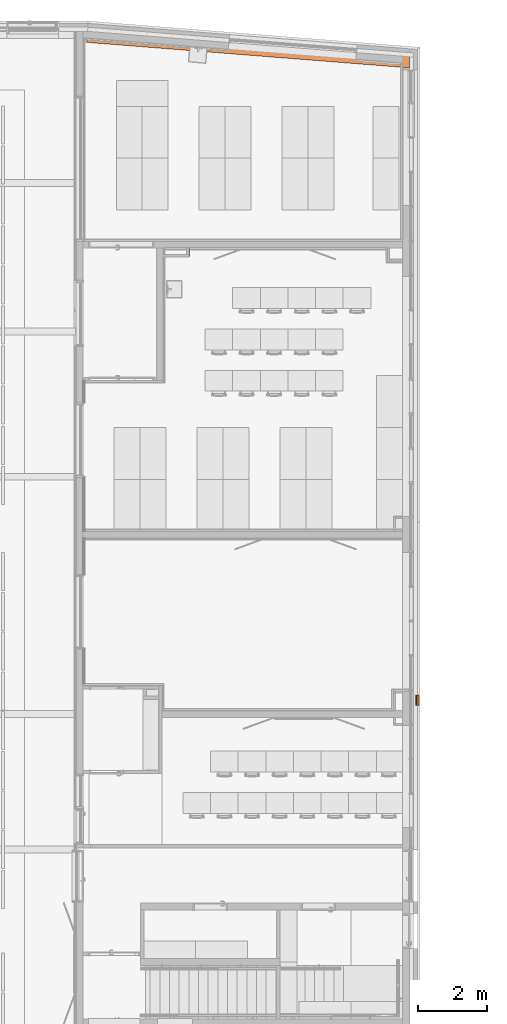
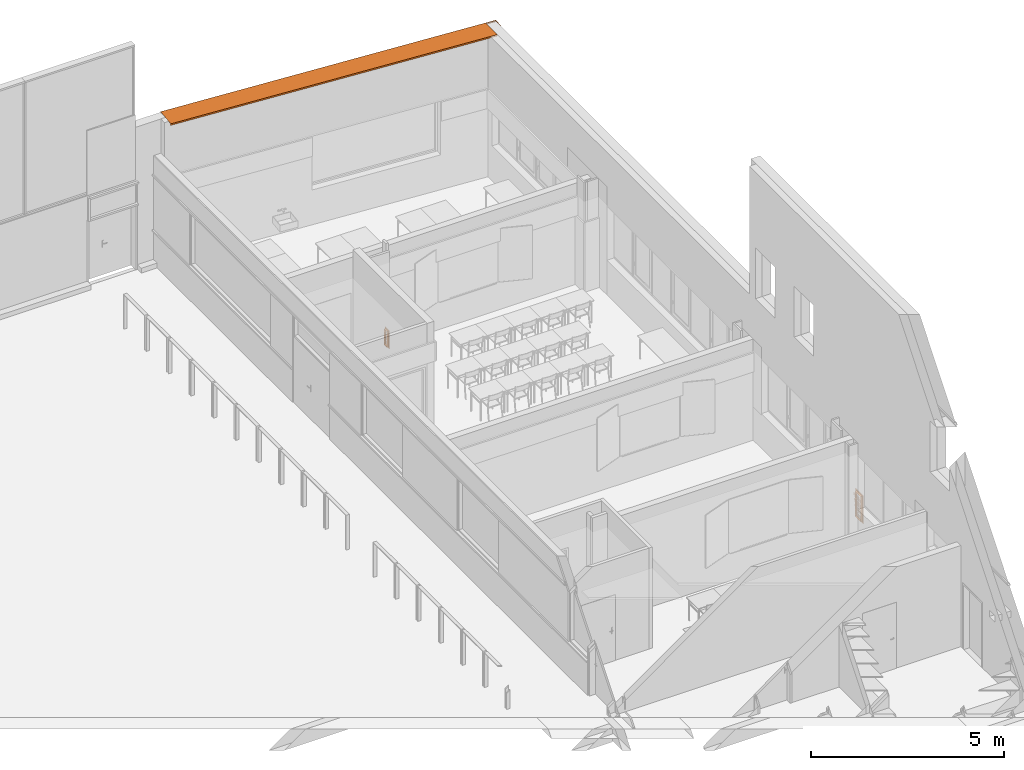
# One storey, part 137 of 137: 3 proxies.
"""IFC2X3 building model written with IfcOpenShell, lengths in centimetres."""

from ifc_helpers import new_model, entity, si_unit, converted_unit, derived_unit, direction, frame, origin, place, context, subcontext, project, spatial, faceted_brep, source, transform, mapped, material, type_object, type_shapes, element, save


model = new_model("IFC2X3")

# Units and contexts
model_context = context("Model", 3, precision=0.001, world=origin(), true_north=direction((6.12303176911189e-17, 1.0)))
body_context = subcontext(model_context, "Body", "Model", "MODEL_VIEW")
ifc_project = project(units=[si_unit("LENGTHUNIT", "METRE", prefix="CENTI"), si_unit("AREAUNIT", "SQUARE_METRE"), si_unit("VOLUMEUNIT", "CUBIC_METRE"), converted_unit("PLANEANGLEUNIT", "DEGREE", entity("IfcRatioMeasure", 0.0174532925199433), si_unit("PLANEANGLEUNIT", "RADIAN"), dimensions=[0, 0, 0, 0, 0, 0, 0]), si_unit("MASSUNIT", "GRAM", prefix="KILO"), si_unit("TIMEUNIT", "SECOND"), si_unit("FREQUENCYUNIT", "HERTZ"), si_unit("THERMODYNAMICTEMPERATUREUNIT", "DEGREE_CELSIUS"), derived_unit("THERMALTRANSMITTANCEUNIT", [(si_unit("MASSUNIT", "GRAM", prefix="KILO"), 1), (si_unit("THERMODYNAMICTEMPERATUREUNIT", "KELVIN"), -1), (si_unit("TIMEUNIT", "SECOND"), -3)]), derived_unit("VOLUMETRICFLOWRATEUNIT", [(si_unit("LENGTHUNIT", "METRE"), 3), (si_unit("TIMEUNIT", "SECOND"), -1)]), si_unit("ELECTRICCURRENTUNIT", "AMPERE"), si_unit("ELECTRICVOLTAGEUNIT", "VOLT"), si_unit("POWERUNIT", "WATT"), si_unit("FORCEUNIT", "NEWTON", prefix="KILO"), si_unit("ILLUMINANCEUNIT", "LUX"), si_unit("LUMINOUSFLUXUNIT", "LUMEN"), si_unit("LUMINOUSINTENSITYUNIT", "CANDELA"), derived_unit("USERDEFINED", [(si_unit("MASSUNIT", "GRAM", prefix="KILO"), -1), (si_unit("LENGTHUNIT", "METRE"), -2), (si_unit("TIMEUNIT", "SECOND"), 3), (si_unit("LUMINOUSFLUXUNIT", "LUMEN"), 1)]), derived_unit("LINEARVELOCITYUNIT", [(si_unit("LENGTHUNIT", "METRE"), 1), (si_unit("TIMEUNIT", "SECOND"), -1)]), si_unit("PRESSUREUNIT", "PASCAL"), derived_unit("USERDEFINED", [(si_unit("LENGTHUNIT", "METRE"), -2), (si_unit("MASSUNIT", "GRAM", prefix="KILO"), 1), (si_unit("TIMEUNIT", "SECOND"), -2)])], contexts=[model_context])

# Site, building, storey
site_placement = place(None, frame((8.62739174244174, -249.285249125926, 0.0)))
site = spatial("IfcSite", under=ifc_project, at=site_placement, Name="Default", CompositionType="ELEMENT")
building_placement = place(site_placement, origin())
building = spatial("IfcBuilding", under=site, at=building_placement, CompositionType="ELEMENT")
storey_placement = place(building_placement, origin())
storey = spatial("IfcBuildingStorey", under=building, at=storey_placement, Name="RDC", CompositionType="ELEMENT", Elevation=-8.82465566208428e-11)

# Proxy
ifc_material = material(Name="Acier - Galvanisé")
building_element_proxy_type_1 = type_object("IfcBuildingElementProxyType", Name="310x400", PredefinedType="NOTDEFINED", material=ifc_material)
shared_shape_1 = source(origin(), body_context, "Body", "Brep", [
    faceted_brep([(35.0117756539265, 5.68421052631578, 12.9899362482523), (35.0117756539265, 8.25536096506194, 9.92575847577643), (35.0117756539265, 8.63838318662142, 10.2471522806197), (35.0117756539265, 6.06723274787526, 13.3113300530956), (5.01177565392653, 5.68421052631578, 12.9899362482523), (5.01177565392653, 6.06723274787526, 13.3113300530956), (5.01177565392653, 8.63838318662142, 10.2471522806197), (5.01177565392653, 8.25536096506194, 9.92575847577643)], [[[0, 1, 2, 3]], [[4, 5, 6, 7]], [[1, 0, 4, 7]], [[2, 1, 7, 6]], [[3, 2, 6, 5]], [[0, 3, 5, 4]]]),
    faceted_brep([(35.0117756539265, 5.36842105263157, 16.9039190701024), (35.0117756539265, 7.93957149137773, 13.8397412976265), (35.0117756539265, 8.32259371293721, 14.1611351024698), (35.0117756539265, 5.75144327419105, 17.2253128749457), (5.01177565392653, 5.36842105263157, 16.9039190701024), (5.01177565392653, 5.75144327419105, 17.2253128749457), (5.01177565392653, 8.32259371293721, 14.1611351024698), (5.01177565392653, 7.93957149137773, 13.8397412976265)], [[[0, 1, 2, 3]], [[4, 5, 6, 7]], [[1, 0, 4, 7]], [[2, 1, 7, 6]], [[3, 2, 6, 5]], [[0, 3, 5, 4]]]),
    faceted_brep([(35.0117756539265, 5.05263157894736, 20.8179018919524), (35.0117756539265, 7.62378201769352, 17.7537241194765), (35.0117756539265, 8.006804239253, 18.0751179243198), (35.0117756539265, 5.43565380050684, 21.1392956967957), (5.01177565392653, 5.05263157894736, 20.8179018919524), (5.01177565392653, 5.43565380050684, 21.1392956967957), (5.01177565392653, 8.006804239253, 18.0751179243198), (5.01177565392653, 7.62378201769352, 17.7537241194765)], [[[0, 1, 2, 3]], [[4, 5, 6, 7]], [[1, 0, 4, 7]], [[2, 1, 7, 6]], [[3, 2, 6, 5]], [[0, 3, 5, 4]]]),
    faceted_brep([(35.0117756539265, 4.73684210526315, 24.7318847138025), (35.0117756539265, 7.30799254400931, 21.6677069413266), (35.0117756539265, 7.69101476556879, 21.9891007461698), (35.0117756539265, 5.11986432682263, 25.0532785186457), (5.01177565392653, 4.73684210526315, 24.7318847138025), (5.01177565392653, 5.11986432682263, 25.0532785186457), (5.01177565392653, 7.69101476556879, 21.9891007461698), (5.01177565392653, 7.30799254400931, 21.6677069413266)], [[[0, 1, 2, 3]], [[4, 5, 6, 7]], [[1, 0, 4, 7]], [[2, 1, 7, 6]], [[3, 2, 6, 5]], [[0, 3, 5, 4]]]),
    faceted_brep([(35.0117756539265, 4.42105263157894, 28.6458675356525), (35.0117756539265, 6.9922030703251, 25.5816897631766), (35.0117756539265, 7.37522529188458, 25.9030835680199), (35.0117756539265, 4.80407485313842, 28.9672613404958), (5.01177565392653, 4.42105263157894, 28.6458675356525), (5.01177565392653, 4.80407485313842, 28.9672613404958), (5.01177565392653, 7.37522529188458, 25.9030835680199), (5.01177565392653, 6.9922030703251, 25.5816897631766)], [[[0, 1, 2, 3]], [[4, 5, 6, 7]], [[1, 0, 4, 7]], [[2, 1, 7, 6]], [[3, 2, 6, 5]], [[0, 3, 5, 4]]]),
    faceted_brep([(35.0117756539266, 4.10526315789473, 32.5598503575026), (35.0117756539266, 6.67641359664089, 29.4956725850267), (35.0117756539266, 7.05943581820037, 29.8170663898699), (35.0117756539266, 4.48828537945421, 32.8812441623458), (5.0117756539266, 4.10526315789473, 32.5598503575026), (5.0117756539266, 4.48828537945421, 32.8812441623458), (5.0117756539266, 7.05943581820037, 29.8170663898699), (5.0117756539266, 6.67641359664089, 29.4956725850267)], [[[0, 1, 2, 3]], [[4, 5, 6, 7]], [[1, 0, 4, 7]], [[2, 1, 7, 6]], [[3, 2, 6, 5]], [[0, 3, 5, 4]]]),
    faceted_brep([(35.0117756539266, 3.78947368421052, 36.4738331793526), (35.0117756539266, 6.36062412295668, 33.4096554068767), (35.0117756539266, 6.74364634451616, 33.73104921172), (35.0117756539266, 4.17249590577, 36.7952269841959), (5.0117756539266, 3.78947368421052, 36.4738331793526), (5.0117756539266, 4.17249590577, 36.7952269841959), (5.0117756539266, 6.74364634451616, 33.73104921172), (5.0117756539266, 6.36062412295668, 33.4096554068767)], [[[0, 1, 2, 3]], [[4, 5, 6, 7]], [[1, 0, 4, 7]], [[2, 1, 7, 6]], [[3, 2, 6, 5]], [[0, 3, 5, 4]]]),
    faceted_brep([(35.0117756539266, 3.47368421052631, 40.3878160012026), (35.0117756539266, 6.04483464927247, 37.3236382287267), (35.0117756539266, 6.42785687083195, 37.64503203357), (35.0117756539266, 3.85670643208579, 40.7092098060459), (5.0117756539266, 3.47368421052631, 40.3878160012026), (5.0117756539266, 3.85670643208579, 40.7092098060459), (5.0117756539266, 6.42785687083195, 37.64503203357), (5.0117756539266, 6.04483464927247, 37.3236382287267)], [[[0, 1, 2, 3]], [[4, 5, 6, 7]], [[1, 0, 4, 7]], [[2, 1, 7, 6]], [[3, 2, 6, 5]], [[0, 3, 5, 4]]]),
    faceted_brep([(35.0117756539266, 3.1578947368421, 44.3017988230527), (35.0117756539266, 5.72904517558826, 41.2376210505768), (35.0117756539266, 6.11206739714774, 41.55901485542), (35.0117756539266, 3.54091695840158, 44.6231926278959), (5.0117756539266, 3.1578947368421, 44.3017988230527), (5.0117756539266, 3.54091695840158, 44.6231926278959), (5.0117756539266, 6.11206739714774, 41.55901485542), (5.0117756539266, 5.72904517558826, 41.2376210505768)], [[[0, 1, 2, 3]], [[4, 5, 6, 7]], [[1, 0, 4, 7]], [[2, 1, 7, 6]], [[3, 2, 6, 5]], [[0, 3, 5, 4]]]),
    faceted_brep([(35.0117756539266, 2.84210526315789, 48.2157816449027), (35.0117756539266, 5.41325570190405, 45.1516038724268), (35.0117756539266, 5.79627792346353, 45.4729976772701), (35.0117756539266, 3.22512748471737, 48.537175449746), (5.0117756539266, 2.84210526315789, 48.2157816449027), (5.0117756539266, 3.22512748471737, 48.537175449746), (5.0117756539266, 5.79627792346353, 45.4729976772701), (5.0117756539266, 5.41325570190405, 45.1516038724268)], [[[0, 1, 2, 3]], [[4, 5, 6, 7]], [[1, 0, 4, 7]], [[2, 1, 7, 6]], [[3, 2, 6, 5]], [[0, 3, 5, 4]]]),
    faceted_brep([(35.0117756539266, 2.52631578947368, 52.1297644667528), (35.0117756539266, 5.09746622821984, 49.0655866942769), (35.0117756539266, 5.48048844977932, 49.3869804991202), (35.0117756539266, 2.90933801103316, 52.451158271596), (5.0117756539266, 2.52631578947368, 52.1297644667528), (5.0117756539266, 2.90933801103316, 52.451158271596), (5.0117756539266, 5.48048844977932, 49.3869804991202), (5.0117756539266, 5.09746622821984, 49.0655866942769)], [[[0, 1, 2, 3]], [[4, 5, 6, 7]], [[1, 0, 4, 7]], [[2, 1, 7, 6]], [[3, 2, 6, 5]], [[0, 3, 5, 4]]]),
    faceted_brep([(35.0117756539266, 2.21052631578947, 56.0437472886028), (35.0117756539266, 4.78167675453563, 52.9795695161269), (35.0117756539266, 5.16469897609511, 53.3009633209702), (35.0117756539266, 2.59354853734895, 56.3651410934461), (5.0117756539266, 2.21052631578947, 56.0437472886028), (5.0117756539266, 2.59354853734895, 56.3651410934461), (5.0117756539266, 5.16469897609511, 53.3009633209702), (5.0117756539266, 4.78167675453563, 52.9795695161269)], [[[0, 1, 2, 3]], [[4, 5, 6, 7]], [[1, 0, 4, 7]], [[2, 1, 7, 6]], [[3, 2, 6, 5]], [[0, 3, 5, 4]]]),
    faceted_brep([(35.0117756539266, 1.89473684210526, 59.9577301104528), (35.0117756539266, 4.46588728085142, 56.893552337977), (35.0117756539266, 4.8489095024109, 57.2149461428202), (35.0117756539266, 2.27775906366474, 60.2791239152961), (5.0117756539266, 1.89473684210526, 59.9577301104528), (5.0117756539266, 2.27775906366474, 60.2791239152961), (5.0117756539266, 4.8489095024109, 57.2149461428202), (5.0117756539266, 4.46588728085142, 56.893552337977)], [[[0, 1, 2, 3]], [[4, 5, 6, 7]], [[1, 0, 4, 7]], [[2, 1, 7, 6]], [[3, 2, 6, 5]], [[0, 3, 5, 4]]]),
    faceted_brep([(35.0117756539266, 1.57894736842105, 63.8717129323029), (35.0117756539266, 4.15009780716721, 60.807535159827), (35.0117756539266, 4.53312002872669, 61.1289289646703), (35.0117756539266, 1.96196958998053, 64.1931067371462), (5.0117756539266, 1.57894736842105, 63.8717129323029), (5.0117756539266, 1.96196958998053, 64.1931067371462), (5.0117756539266, 4.53312002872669, 61.1289289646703), (5.0117756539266, 4.15009780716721, 60.807535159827)], [[[0, 1, 2, 3]], [[4, 5, 6, 7]], [[1, 0, 4, 7]], [[2, 1, 7, 6]], [[3, 2, 6, 5]], [[0, 3, 5, 4]]]),
    faceted_brep([(35.0117756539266, 1.26315789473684, 67.7856957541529), (35.0117756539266, 3.834308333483, 64.721517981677), (35.0117756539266, 4.21733055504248, 65.0429117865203), (35.0117756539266, 1.64618011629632, 68.1070895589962), (5.0117756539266, 1.26315789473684, 67.7856957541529), (5.0117756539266, 1.64618011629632, 68.1070895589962), (5.0117756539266, 4.21733055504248, 65.0429117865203), (5.0117756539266, 3.834308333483, 64.721517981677)], [[[0, 1, 2, 3]], [[4, 5, 6, 7]], [[1, 0, 4, 7]], [[2, 1, 7, 6]], [[3, 2, 6, 5]], [[0, 3, 5, 4]]]),
    faceted_brep([(35.0117756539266, 0.947368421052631, 71.6996785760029), (35.0117756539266, 3.51851885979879, 68.6355008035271), (35.0117756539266, 3.90154108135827, 68.9568946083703), (35.0117756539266, 1.33039064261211, 72.0210723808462), (5.0117756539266, 0.947368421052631, 71.6996785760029), (5.0117756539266, 1.33039064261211, 72.0210723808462), (5.0117756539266, 3.90154108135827, 68.9568946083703), (5.0117756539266, 3.51851885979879, 68.6355008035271)], [[[0, 1, 2, 3]], [[4, 5, 6, 7]], [[1, 0, 4, 7]], [[2, 1, 7, 6]], [[3, 2, 6, 5]], [[0, 3, 5, 4]]]),
    faceted_brep([(35.0117756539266, 0.63157894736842, 75.613661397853), (35.0117756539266, 3.20272938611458, 72.5494836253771), (35.0117756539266, 3.58575160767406, 72.8708774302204), (35.0117756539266, 1.0146011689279, 75.9350552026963), (5.0117756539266, 0.63157894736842, 75.613661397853), (5.0117756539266, 1.0146011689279, 75.9350552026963), (5.0117756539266, 3.58575160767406, 72.8708774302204), (5.0117756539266, 3.20272938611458, 72.5494836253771)], [[[0, 1, 2, 3]], [[4, 5, 6, 7]], [[1, 0, 4, 7]], [[2, 1, 7, 6]], [[3, 2, 6, 5]], [[0, 3, 5, 4]]]),
    faceted_brep([(35.0117756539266, 0.31578947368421, 79.527644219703), (35.0117756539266, 2.88693991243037, 76.4634664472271), (35.0117756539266, 3.26996213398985, 76.7848602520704), (35.0117756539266, 0.698811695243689, 79.8490380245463), (5.0117756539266, 0.31578947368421, 79.527644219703), (5.0117756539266, 0.698811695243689, 79.8490380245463), (5.0117756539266, 3.26996213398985, 76.7848602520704), (5.0117756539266, 2.88693991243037, 76.4634664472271)], [[[0, 1, 2, 3]], [[4, 5, 6, 7]], [[1, 0, 4, 7]], [[2, 1, 7, 6]], [[3, 2, 6, 5]], [[0, 3, 5, 4]]]),
    faceted_brep([(35.0117756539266, 6.0, 9.0759534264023), (35.0117756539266, 8.57115043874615, 6.01177565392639), (35.0117756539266, 8.95417266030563, 6.33316945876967), (35.0117756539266, 6.38302222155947, 9.39734723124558), (5.0117756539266, 6.0, 9.0759534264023), (5.0117756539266, 6.38302222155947, 9.39734723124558), (5.0117756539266, 8.95417266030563, 6.33316945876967), (5.0117756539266, 8.57115043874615, 6.01177565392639)], [[[0, 1, 2, 3]], [[4, 5, 6, 7]], [[1, 0, 4, 7]], [[2, 1, 7, 6]], [[3, 2, 6, 5]], [[0, 3, 5, 4]]]),
    faceted_brep([(35.0117756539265, 0.0, 83.441627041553), (35.0117756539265, 2.57115043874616, 80.3774492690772), (35.0117756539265, 2.95417266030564, 80.6988430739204), (35.0117756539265, 0.383022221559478, 83.7630208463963), (5.01177565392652, 0.0, 83.441627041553), (5.01177565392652, 0.383022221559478, 83.7630208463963), (5.01177565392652, 2.95417266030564, 80.6988430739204), (5.01177565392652, 2.57115043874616, 80.3774492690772)], [[[0, 1, 2, 3]], [[4, 5, 6, 7]], [[1, 0, 4, 7]], [[2, 1, 7, 6]], [[3, 2, 6, 5]], [[0, 3, 5, 4]]]),
    faceted_brep([(4.51177565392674, 4.57115043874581, 84.8774492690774), (4.51177565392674, 9.57115043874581, 84.8774492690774), (4.51177565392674, 9.57115043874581, 4.51177565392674), (4.51177565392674, 4.57115043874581, 4.51177565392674), (5.01177565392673, 10.0711504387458, 84.3774492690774), (5.01177565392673, 4.57115043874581, 84.3774492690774), (5.01177565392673, 4.57115043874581, 5.01177565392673), (5.01177565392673, 10.0711504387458, 5.01177565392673), (0.0, 9.57115043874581, 89.3892249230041), (0.499999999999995, 10.0711504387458, 88.8892249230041), (0.499999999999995, 10.0711504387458, 0.499999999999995), (0.0, 9.57115043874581, 0.0), (35.5117756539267, 9.57115043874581, 4.51177565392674), (35.5117756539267, 4.57115043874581, 4.51177565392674), (35.0117756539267, 4.57115043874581, 5.01177565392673), (35.0117756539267, 10.0711504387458, 5.01177565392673), (39.5235513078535, 10.0711504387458, 0.499999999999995), (40.0235513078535, 9.57115043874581, 0.0), (35.5117756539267, 9.57115043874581, 84.8774492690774), (35.5117756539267, 4.57115043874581, 84.8774492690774), (35.0117756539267, 4.57115043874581, 84.3774492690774), (35.0117756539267, 10.0711504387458, 84.3774492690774), (39.5235513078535, 10.0711504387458, 88.8892249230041), (40.0235513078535, 9.57115043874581, 89.3892249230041)], [[[0, 1, 2, 3]], [[4, 5, 6, 7]], [[8, 9, 10, 11]], [[3, 2, 12, 13]], [[7, 6, 14, 15]], [[11, 10, 16, 17]], [[13, 12, 18, 19]], [[15, 14, 20, 21]], [[17, 16, 22, 23]], [[19, 18, 1, 0]], [[3, 13, 19, 0], [5, 20, 14, 6]], [[21, 20, 5, 4]], [[7, 15, 21, 4], [9, 22, 16, 10]], [[23, 22, 9, 8]], [[11, 17, 23, 8], [1, 18, 12, 2]]], outer=[[True], [True], [True], [True], [True], [True], [True], [True], [True], [True], [True, False], [True], [False, True], [True], [True, False]]),
])
type_shapes(building_element_proxy_type_1, [shared_shape_1])
proxy_1_placement = place(storey_placement, frame((4016.33367737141, 5645.49198378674, 15.3299777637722), z_axis=(0.0, 0.0, 1.0), x_axis=(0.0, -1.0, 0.0)))
element("IfcBuildingElementProxy", 1, at=proxy_1_placement, inside=storey, type_object=building_element_proxy_type_1, material=ifc_material, Name="Grille d'aération-100x80:310x400", ObjectType="310x400", context=body_context, shape_type="MappedRepresentation", body=[
    mapped(shared_shape_1, transform((0.0, 0.0, 0.0), scale=1.0)),
])

# Space
space_placement = place(storey_placement, origin())
space = spatial("IfcSpace", under=storey, at=space_placement, Name="056", CompositionType="ELEMENT", InteriorOrExteriorSpace="INTERNAL")

# Proxies
building_element_proxy_type_2 = type_object("IfcBuildingElementProxyType", Name="200 x 200 mm", PredefinedType="NOTDEFINED", material=ifc_material)
shared_shape_2 = source(origin(), body_context, "Body", "Brep", [
    faceted_brep([(19.0117756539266, 1.42884956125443, 12.742620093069), (19.0117756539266, 4.0, 9.67844232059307), (19.0117756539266, 4.38302222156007, 9.99983612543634), (19.0117756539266, 1.81187178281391, 13.0640138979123), (5.01177565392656, 1.42884956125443, 12.742620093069), (5.01177565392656, 1.81187178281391, 13.0640138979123), (5.01177565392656, 4.38302222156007, 9.99983612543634), (5.01177565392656, 4.0, 9.67844232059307)], [[[0, 1, 2, 3]], [[4, 5, 6, 7]], [[1, 0, 4, 7]], [[2, 1, 7, 6]], [[3, 2, 6, 5]], [[0, 3, 5, 4]]]),
    faceted_brep([(19.0117756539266, 1.42884956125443, 16.4092867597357), (19.0117756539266, 4.0, 13.3451089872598), (19.0117756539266, 4.38302222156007, 13.666502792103), (19.0117756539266, 1.81187178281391, 16.730680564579), (5.01177565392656, 1.42884956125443, 16.4092867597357), (5.01177565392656, 1.81187178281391, 16.730680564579), (5.01177565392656, 4.38302222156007, 13.666502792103), (5.01177565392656, 4.0, 13.3451089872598)], [[[0, 1, 2, 3]], [[4, 5, 6, 7]], [[1, 0, 4, 7]], [[2, 1, 7, 6]], [[3, 2, 6, 5]], [[0, 3, 5, 4]]]),
    faceted_brep([(19.0117756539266, 1.42884956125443, 20.0759534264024), (19.0117756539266, 4.0, 17.0117756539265), (19.0117756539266, 4.38302222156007, 17.3331694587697), (19.0117756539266, 1.81187178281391, 20.3973472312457), (5.01177565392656, 1.42884956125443, 20.0759534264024), (5.01177565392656, 1.81187178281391, 20.3973472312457), (5.01177565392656, 4.38302222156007, 17.3331694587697), (5.01177565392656, 4.0, 17.0117756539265)], [[[0, 1, 2, 3]], [[4, 5, 6, 7]], [[1, 0, 4, 7]], [[2, 1, 7, 6]], [[3, 2, 6, 5]], [[0, 3, 5, 4]]]),
    faceted_brep([(19.0117756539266, 1.42884956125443, 23.7426200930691), (19.0117756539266, 4.0, 20.6784423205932), (19.0117756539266, 4.38302222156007, 20.9998361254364), (19.0117756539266, 1.81187178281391, 24.0640138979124), (5.01177565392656, 1.42884956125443, 23.7426200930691), (5.01177565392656, 1.81187178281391, 24.0640138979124), (5.01177565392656, 4.38302222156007, 20.9998361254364), (5.01177565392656, 4.0, 20.6784423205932)], [[[0, 1, 2, 3]], [[4, 5, 6, 7]], [[1, 0, 4, 7]], [[2, 1, 7, 6]], [[3, 2, 6, 5]], [[0, 3, 5, 4]]]),
    faceted_brep([(19.0117756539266, 1.42884956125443, 27.4092867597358), (19.0117756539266, 4.0, 24.3451089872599), (19.0117756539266, 4.38302222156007, 24.6665027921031), (19.0117756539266, 1.81187178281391, 27.7306805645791), (5.01177565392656, 1.42884956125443, 27.4092867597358), (5.01177565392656, 1.81187178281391, 27.7306805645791), (5.01177565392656, 4.38302222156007, 24.6665027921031), (5.01177565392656, 4.0, 24.3451089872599)], [[[0, 1, 2, 3]], [[4, 5, 6, 7]], [[1, 0, 4, 7]], [[2, 1, 7, 6]], [[3, 2, 6, 5]], [[0, 3, 5, 4]]]),
    faceted_brep([(19.0117756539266, 1.42884956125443, 31.0759534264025), (19.0117756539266, 4.0, 28.0117756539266), (19.0117756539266, 4.38302222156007, 28.3331694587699), (19.0117756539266, 1.81187178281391, 31.3973472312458), (5.01177565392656, 1.42884956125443, 31.0759534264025), (5.01177565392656, 1.81187178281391, 31.3973472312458), (5.01177565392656, 4.38302222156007, 28.3331694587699), (5.01177565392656, 4.0, 28.0117756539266)], [[[0, 1, 2, 3]], [[4, 5, 6, 7]], [[1, 0, 4, 7]], [[2, 1, 7, 6]], [[3, 2, 6, 5]], [[0, 3, 5, 4]]]),
    faceted_brep([(19.0117756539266, 1.42884956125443, 34.7426200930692), (19.0117756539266, 4.0, 31.6784423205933), (19.0117756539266, 4.38302222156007, 31.9998361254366), (19.0117756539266, 1.81187178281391, 35.0640138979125), (5.01177565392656, 1.42884956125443, 34.7426200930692), (5.01177565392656, 1.81187178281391, 35.0640138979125), (5.01177565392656, 4.38302222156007, 31.9998361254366), (5.01177565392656, 4.0, 31.6784423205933)], [[[0, 1, 2, 3]], [[4, 5, 6, 7]], [[1, 0, 4, 7]], [[2, 1, 7, 6]], [[3, 2, 6, 5]], [[0, 3, 5, 4]]]),
    faceted_brep([(19.0117756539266, 1.42884956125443, 38.4092867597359), (19.0117756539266, 4.0, 35.34510898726), (19.0117756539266, 4.38302222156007, 35.6665027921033), (19.0117756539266, 1.81187178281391, 38.7306805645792), (5.01177565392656, 1.42884956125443, 38.4092867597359), (5.01177565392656, 1.81187178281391, 38.7306805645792), (5.01177565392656, 4.38302222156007, 35.6665027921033), (5.01177565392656, 4.0, 35.34510898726)], [[[0, 1, 2, 3]], [[4, 5, 6, 7]], [[1, 0, 4, 7]], [[2, 1, 7, 6]], [[3, 2, 6, 5]], [[0, 3, 5, 4]]]),
    faceted_brep([(19.0117756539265, 1.42884956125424, 42.0759534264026), (19.0117756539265, 4.0, 39.0117756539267), (19.0117756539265, 4.38302222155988, 39.33316945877), (19.0117756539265, 1.81187178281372, 42.3973472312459), (5.01177565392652, 1.42884956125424, 42.0759534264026), (5.01177565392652, 1.81187178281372, 42.3973472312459), (5.01177565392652, 4.38302222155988, 39.33316945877), (5.01177565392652, 4.0, 39.0117756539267)], [[[0, 1, 2, 3]], [[4, 5, 6, 7]], [[1, 0, 4, 7]], [[2, 1, 7, 6]], [[3, 2, 6, 5]], [[0, 3, 5, 4]]]),
    faceted_brep([(19.0117756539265, 1.42884956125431, 45.7426200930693), (19.0117756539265, 4.0, 42.6784423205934), (19.0117756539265, 4.38302222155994, 42.9998361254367), (19.0117756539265, 1.81187178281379, 46.0640138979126), (5.01177565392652, 1.42884956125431, 45.7426200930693), (5.01177565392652, 1.81187178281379, 46.0640138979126), (5.01177565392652, 4.38302222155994, 42.9998361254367), (5.01177565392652, 4.0, 42.6784423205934)], [[[0, 1, 2, 3]], [[4, 5, 6, 7]], [[1, 0, 4, 7]], [[2, 1, 7, 6]], [[3, 2, 6, 5]], [[0, 3, 5, 4]]]),
    faceted_brep([(19.0117756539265, 1.42884956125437, 49.409286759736), (19.0117756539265, 4.0, 46.3451089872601), (19.0117756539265, 4.38302222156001, 46.6665027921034), (19.0117756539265, 1.81187178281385, 49.7306805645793), (5.01177565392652, 1.42884956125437, 49.409286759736), (5.01177565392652, 1.81187178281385, 49.7306805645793), (5.01177565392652, 4.38302222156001, 46.6665027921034), (5.01177565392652, 4.0, 46.3451089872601)], [[[0, 1, 2, 3]], [[4, 5, 6, 7]], [[1, 0, 4, 7]], [[2, 1, 7, 6]], [[3, 2, 6, 5]], [[0, 3, 5, 4]]]),
    faceted_brep([(19.0117756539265, 1.42884956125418, 9.07595342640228), (19.0117756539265, 4.0, 6.01177565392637), (19.0117756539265, 4.38302222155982, 6.33316945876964), (19.0117756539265, 1.81187178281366, 9.39734723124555), (5.01177565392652, 1.42884956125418, 9.07595342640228), (5.01177565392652, 1.81187178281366, 9.39734723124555), (5.01177565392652, 4.38302222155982, 6.33316945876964), (5.01177565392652, 4.0, 6.01177565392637)], [[[0, 1, 2, 3]], [[4, 5, 6, 7]], [[1, 0, 4, 7]], [[2, 1, 7, 6]], [[3, 2, 6, 5]], [[0, 3, 5, 4]]]),
    faceted_brep([(19.0117756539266, 1.42884956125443, 53.0759534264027), (19.0117756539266, 4.0, 50.0117756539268), (19.0117756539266, 4.38302222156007, 50.3331694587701), (19.0117756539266, 1.81187178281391, 53.397347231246), (5.01177565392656, 1.42884956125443, 53.0759534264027), (5.01177565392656, 1.81187178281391, 53.397347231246), (5.01177565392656, 4.38302222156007, 50.3331694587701), (5.01177565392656, 4.0, 50.0117756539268)], [[[0, 1, 2, 3]], [[4, 5, 6, 7]], [[1, 0, 4, 7]], [[2, 1, 7, 6]], [[3, 2, 6, 5]], [[0, 3, 5, 4]]]),
    faceted_brep([(4.51177565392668, 0.0, 54.511775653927), (4.51177565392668, 5.0, 54.511775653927), (4.51177565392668, 5.0, 4.51177565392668), (4.51177565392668, 0.0, 4.51177565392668), (5.01177565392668, 5.5, 54.011775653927), (5.01177565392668, 0.0, 54.011775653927), (5.01177565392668, 0.0, 5.01177565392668), (5.01177565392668, 5.5, 5.01177565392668), (0.0, 5.0, 59.0235513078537), (0.499999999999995, 5.5, 58.5235513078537), (0.499999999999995, 5.5, 0.499999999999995), (0.0, 5.0, 0.0), (19.5117756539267, 5.0, 4.51177565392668), (19.5117756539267, 0.0, 4.51177565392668), (19.0117756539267, 0.0, 5.01177565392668), (19.0117756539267, 5.5, 5.01177565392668), (23.5235513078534, 5.5, 0.499999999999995), (24.0235513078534, 5.0, 0.0), (19.5117756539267, 5.0, 54.511775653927), (19.5117756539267, 0.0, 54.511775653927), (19.0117756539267, 0.0, 54.011775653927), (19.0117756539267, 5.5, 54.011775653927), (23.5235513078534, 5.5, 58.5235513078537), (24.0235513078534, 5.0, 59.0235513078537)], [[[0, 1, 2, 3]], [[4, 5, 6, 7]], [[8, 9, 10, 11]], [[3, 2, 12, 13]], [[7, 6, 14, 15]], [[11, 10, 16, 17]], [[13, 12, 18, 19]], [[15, 14, 20, 21]], [[17, 16, 22, 23]], [[19, 18, 1, 0]], [[3, 13, 19, 0], [5, 20, 14, 6]], [[21, 20, 5, 4]], [[7, 15, 21, 4], [9, 22, 16, 10]], [[23, 22, 9, 8]], [[11, 17, 23, 8], [1, 18, 12, 2]]], outer=[[True], [True], [True], [True], [True], [True], [True], [True], [True], [True], [True, False], [True], [False, True], [True], [True, False]]),
])
type_shapes(building_element_proxy_type_2, [shared_shape_2])
proxy_2_placement = place(space_placement, frame((3355.9048276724, 6933.99198379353, 10.0), z_axis=(0.0, 0.0, 1.0), x_axis=(0.0, -1.0, 0.0)))
element("IfcBuildingElementProxy", 2, at=proxy_2_placement, inside=space, type_object=building_element_proxy_type_2, material=ifc_material, Name="Grille d'aération 20x20- Mur:200 x 200 mm", ObjectType="200 x 200 mm", context=body_context, shape_type="MappedRepresentation", body=[
    mapped(shared_shape_2, transform((0.0, 0.0, 0.0), scale=1.0)),
])
proxy_3_placement = place(storey_placement, frame((3064.12134527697, 7456.16183126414, 446.0)))
element("IfcBuildingElementProxy", 3, at=proxy_3_placement, inside=storey, Name="Profil en relief:profil-couvertine", ObjectType="Profil en relief:profil-couvertine", context=body_context, shape_type="Brep", body=[
    faceted_brep([(0.0, 73.9142891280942, 5.0), (4.80832464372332, 134.724485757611, 5.0), (4.80832464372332, 134.724485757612, 0.0), (4.6900871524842, 133.229153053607, 0.0), (4.6900871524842, 133.229153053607, 0.0999999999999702), (4.80044214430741, 134.624796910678, 0.100000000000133), (4.80044214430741, 134.624796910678, 4.90000000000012), (0.00788249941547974, 74.0139779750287, 4.90000000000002), (0.00788249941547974, 74.0139779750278, 0.241421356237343), (0.105901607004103, 75.2536116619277, 1.48492424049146), (0.111475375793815, 75.3241023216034, 1.41421356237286), (0.0, 73.9142891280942, 0.0), (964.811920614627, 58.8160163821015, 0.0), (964.811920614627, 58.8160163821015, 5.0), (961.783482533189, 20.5157914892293, 5.0), (961.783482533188, 20.5157914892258, 4.90000000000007), (964.804038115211, 58.7163275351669, 4.90000000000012), (964.804038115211, 58.7163275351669, 0.100000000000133), (964.693683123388, 57.3206836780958, 0.0999999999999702), (964.693683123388, 57.3206836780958, 0.0), (934.783482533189, 0.0, 5.0), (934.783482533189, 59.1841533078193, 5.0), (961.783482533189, 57.0492356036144, 5.0), (961.783482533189, 57.0492356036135, 4.90000000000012), (934.78348253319, 59.1841533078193, 4.90000000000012), (934.783482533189, 0.100312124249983, 4.90000000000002), (934.783482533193, 0.100312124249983, 0.241421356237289), (934.783482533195, 1.34769628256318, 1.48492424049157), (934.783482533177, 1.41862766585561, 1.4142135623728), (934.783482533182, 0.0, 0.0)], [[[0, 1, 2, 3, 4, 5, 6, 7, 8, 9, 10, 11]], [[12, 13, 14, 15, 16, 17, 18, 19]], [[1, 0, 20, 21, 22, 14, 13]], [[2, 1, 13, 12]], [[3, 2, 12, 19]], [[4, 3, 19, 18]], [[5, 4, 18, 17]], [[6, 5, 17, 16]], [[7, 6, 16, 15, 23, 24, 25]], [[8, 7, 25, 26]], [[9, 8, 26, 27]], [[10, 9, 27, 28]], [[11, 10, 28, 29]], [[0, 11, 29, 20]], [[24, 21, 20, 29, 28, 27, 26, 25]], [[21, 24, 23, 22]], [[22, 23, 15, 14]]]),
])

save(model, "model.ifc")
